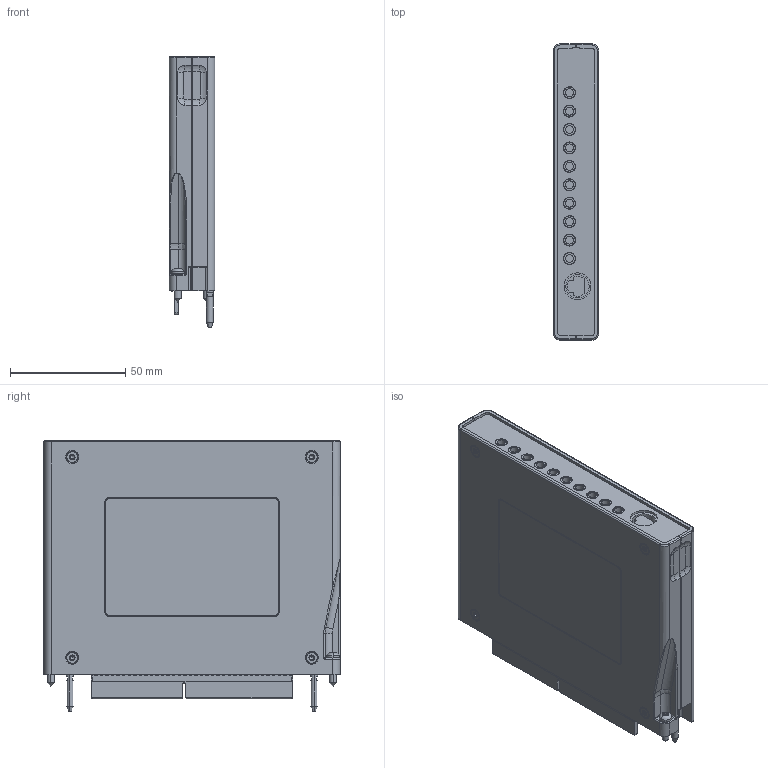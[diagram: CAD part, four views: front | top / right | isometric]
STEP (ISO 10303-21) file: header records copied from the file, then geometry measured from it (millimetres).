
FILE_DESCRIPTION((''),'2;1');
FILE_NAME('CU_FAM2_NI-5781','2012-01-12T',('jjorden'),(''),'PRO/ENGINEER BY PARAMETRIC TECHNOLOGY CORPORATION, 2010230','PRO/ENGINEER BY PARAMETRIC TECHNOLOGY CORPORATION, 2010230','');
FILE_SCHEMA(('CONFIG_CONTROL_DESIGN'));
Products named in the file (1): CU_FAM2_NI-5781
Bounding box: 19.81 x 128.68 x 117.6 mm (x, y, z)
Volume: 73509.8 mm3; surface area: 108789.4 mm2
Topology: 4 solids, 4 shells, 2776 faces, 6477 edges, 3685 vertices
Faces by surface type: plane 1305, cylinder 957, bspline 368, cone 80, sphere 40, torus 26
Entity records: 115710 total; most frequent: CARTESIAN_POINT 55699, ORIENTED_EDGE 12914, DIRECTION 11451, EDGE_CURVE 6457, VECTOR 3891, LINE 3891, AXIS2_PLACEMENT_3D 3780, VERTEX_POINT 3723
